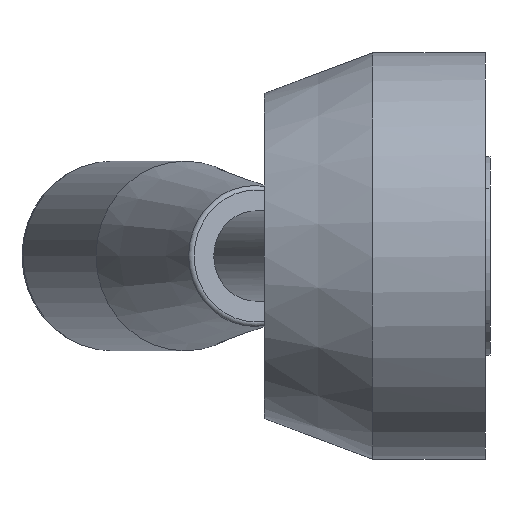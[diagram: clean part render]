
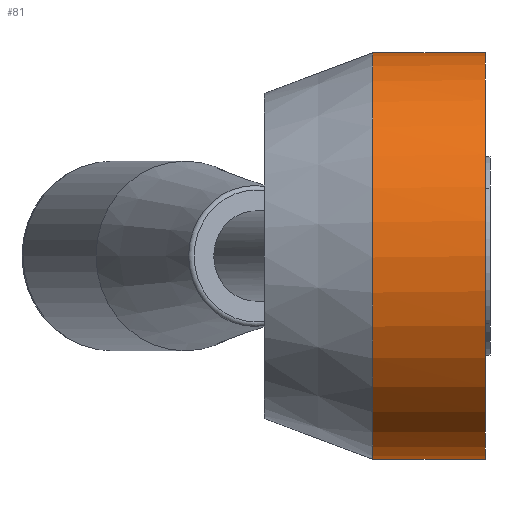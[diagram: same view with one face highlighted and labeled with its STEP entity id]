
A CAD part, left-side view. The second image highlights one B-rep face of the part: STEP entity #81.
In plain terms, the highlighted cylindrical face has radius 22.5 mm (diameter 45 mm), a full revolution.
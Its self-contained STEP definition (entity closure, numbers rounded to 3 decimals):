
#81 = ADVANCED_FACE( '', ( #135, #136 ), #137, .T. );
#135 = FACE_OUTER_BOUND( '', #236, .T. );
#136 = FACE_OUTER_BOUND( '', #237, .T. );
#137 = CYLINDRICAL_SURFACE( '', #238, 22.5 );
#236 = EDGE_LOOP( '', ( #369 ) );
#237 = EDGE_LOOP( '', ( #370, #371, #372, #373 ) );
#238 = AXIS2_PLACEMENT_3D( '', #374, #375, #376 );
#369 = ORIENTED_EDGE( '', *, *, #596, .F. );
#370 = ORIENTED_EDGE( '', *, *, #584, .F. );
#371 = ORIENTED_EDGE( '', *, *, #603, .T. );
#372 = ORIENTED_EDGE( '', *, *, #573, .F. );
#373 = ORIENTED_EDGE( '', *, *, #604, .F. );
#374 = CARTESIAN_POINT( '', ( 0., 0., 0. ) );
#375 = DIRECTION( '', ( 0., 1., 0. ) );
#376 = DIRECTION( '', ( 0., 0., -1. ) );
#573 = EDGE_CURVE( '', #644, #645, #646, .F. );
#584 = EDGE_CURVE( '', #663, #665, #666, .T. );
#596 = EDGE_CURVE( '', #688, #688, #689, .T. );
#603 = EDGE_CURVE( '', #663, #645, #702, .T. );
#604 = EDGE_CURVE( '', #665, #644, #703, .T. );
#644 = VERTEX_POINT( '', #763 );
#645 = VERTEX_POINT( '', #764 );
#646 = LINE( '', #765, #766 );
#663 = VERTEX_POINT( '', #797 );
#665 = VERTEX_POINT( '', #806 );
#666 = LINE( '', #807, #808 );
#688 = VERTEX_POINT( '', #835 );
#689 = CIRCLE( '', #836, 22.5 );
#702 = CIRCLE( '', #849, 22.5 );
#703 = CIRCLE( '', #850, 22.5 );
#763 = CARTESIAN_POINT( '', ( 16.955, 2., -14.791 ) );
#764 = CARTESIAN_POINT( '', ( 16.955, 13., -14.791 ) );
#765 = CARTESIAN_POINT( '', ( 16.955, 0., -14.791 ) );
#766 = VECTOR( '', #926, 1000. );
#797 = CARTESIAN_POINT( '', ( 16.955, 13., 14.791 ) );
#806 = CARTESIAN_POINT( '', ( 16.955, 2., 14.791 ) );
#807 = CARTESIAN_POINT( '', ( 16.955, 0., 14.791 ) );
#808 = VECTOR( '', #937, 1000. );
#835 = CARTESIAN_POINT( '', ( 0., 0.5, -22.5 ) );
#836 = AXIS2_PLACEMENT_3D( '', #961, #962, #963 );
#849 = AXIS2_PLACEMENT_3D( '', #982, #983, #984 );
#850 = AXIS2_PLACEMENT_3D( '', #985, #986, #987 );
#926 = DIRECTION( '', ( 0., -1., 0. ) );
#937 = DIRECTION( '', ( 0., -1., 0. ) );
#961 = CARTESIAN_POINT( '', ( 0., 0.5, 0. ) );
#962 = DIRECTION( '', ( 0., -1., 0. ) );
#963 = DIRECTION( '', ( 0., 0., -1. ) );
#982 = CARTESIAN_POINT( '', ( 0., 13., 0. ) );
#983 = DIRECTION( '', ( 0., -1., 0. ) );
#984 = DIRECTION( '', ( 0., 0., -1. ) );
#985 = CARTESIAN_POINT( '', ( 0., 2., 0. ) );
#986 = DIRECTION( '', ( 0., 1., 0. ) );
#987 = DIRECTION( '', ( 0., 0., 1. ) );
